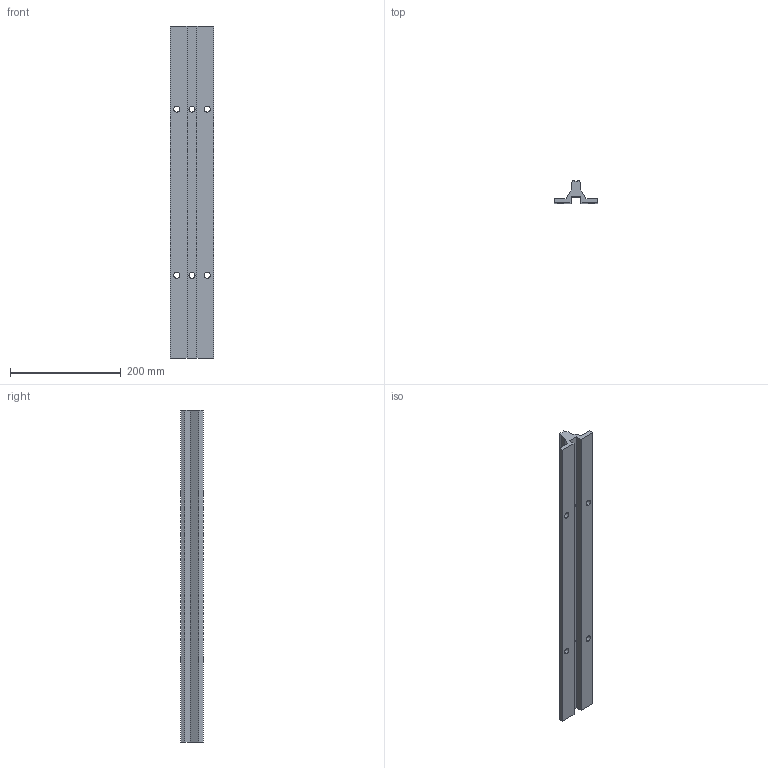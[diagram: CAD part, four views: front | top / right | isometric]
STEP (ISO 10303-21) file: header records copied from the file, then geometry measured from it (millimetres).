
FILE_DESCRIPTION (( 'STEP AP203' ), '1' );
FILE_NAME ('KWS50-40 T1-T2.step', '2020-03-23T07:52:56', ( '' ), ( '' ), 'SwSTEP 2.0', 'SolidWorks 2019', '' );
FILE_SCHEMA (( 'CONFIG_CONTROL_DESIGN' ));
Length unit declared in the file: millimetre
Products named in the file (2): KWS50-40 T1-T2
Bounding box: 78 x 40.76 x 599.5 mm (x, y, z)
Volume: 657802.2 mm3; surface area: 149502.3 mm2
Topology: 1 solids, 1 shells, 31 faces, 89 edges, 58 vertices
Faces by surface type: plane 19, cylinder 12
Entity records: 1190 total; most frequent: CARTESIAN_POINT 192, ORIENTED_EDGE 178, DIRECTION 171, EDGE_CURVE 89, VECTOR 65, LINE 65, VERTEX_POINT 58, AXIS2_PLACEMENT_3D 53
